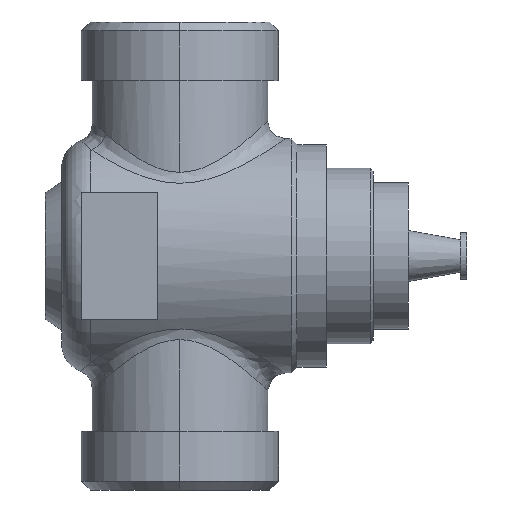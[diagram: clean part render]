
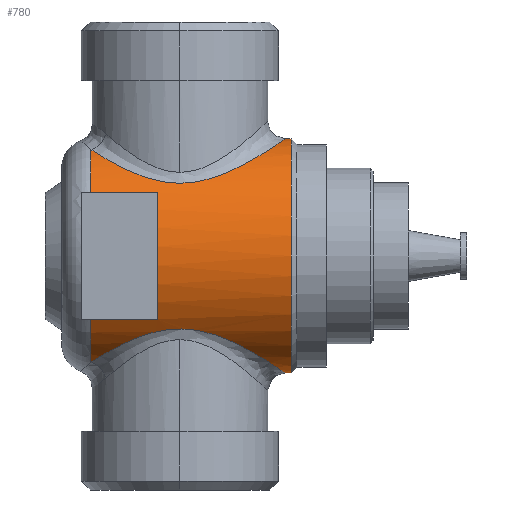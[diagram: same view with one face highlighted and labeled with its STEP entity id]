
A CAD part, left-side view. The second image highlights one B-rep face of the part: STEP entity #780.
In plain terms, the highlighted cylindrical face has radius 20 mm (diameter 40 mm), a partial arc.
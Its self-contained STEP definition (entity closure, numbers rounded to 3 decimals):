
#534=CARTESIAN_POINT('',(0.,-19.,20.0));
#535=VERTEX_POINT('',#534);
#544=CARTESIAN_POINT('',(0.,-19.,60.0));
#545=VERTEX_POINT('',#544);
#645=CARTESIAN_POINT('',(0.,0.614,40.0));
#646=DIRECTION('',(0.0,1.0,0.));
#647=DIRECTION('',(0.0,0.0,-1.0));
#648=AXIS2_PLACEMENT_3D('',#645,#646,#647);
#649=CYLINDRICAL_SURFACE('',#648,20.0);
#650=CARTESIAN_POINT('',(0.,-18.,20.));
#651=VERTEX_POINT('',#650);
#652=CARTESIAN_POINT('',(0.,-19.,20.0));
#653=DIRECTION('',(0.0,1.0,0.0));
#654=VECTOR('',#653,1.);
#655=LINE('',#652,#654);
#656=EDGE_CURVE('',#535,#651,#655,.T.);
#657=ORIENTED_EDGE('',*,*,#656,.F.);
#658=CARTESIAN_POINT('',(0.,-19.,40.0));
#659=DIRECTION('',(0.0,1.0,0.0));
#660=DIRECTION('',(0.0,0.0,-1.0));
#661=AXIS2_PLACEMENT_3D('',#658,#659,#660);
#662=CIRCLE('',#661,20.0);
#663=EDGE_CURVE('',#535,#545,#662,.T.);
#664=ORIENTED_EDGE('',*,*,#663,.T.);
#665=CARTESIAN_POINT('',(0.,-18.,60.));
#666=VERTEX_POINT('',#665);
#667=CARTESIAN_POINT('',(0.,-18.,60.));
#668=DIRECTION('',(0.0,-1.0,0.0));
#669=VECTOR('',#668,1.0);
#670=LINE('',#667,#669);
#671=EDGE_CURVE('',#666,#545,#670,.T.);
#672=ORIENTED_EDGE('',*,*,#671,.F.);
#673=CARTESIAN_POINT('',(-15.039,-4.988,53.184));
#674=VERTEX_POINT('',#673);
#675=CARTESIAN_POINT('',(0.,-18.,60.));
#676=CARTESIAN_POINT('',(-1.671,-18.,60.));
#677=CARTESIAN_POINT('',(-3.341,-17.685,59.784));
#678=CARTESIAN_POINT('',(-7.607,-16.071,58.708));
#679=CARTESIAN_POINT('',(-9.909,-14.265,57.509));
#680=CARTESIAN_POINT('',(-13.211,-10.009,55.134));
#681=CARTESIAN_POINT('',(-14.365,-7.677,53.953));
#682=CARTESIAN_POINT('',(-15.039,-4.988,53.184));
#683=B_SPLINE_CURVE_WITH_KNOTS('',3,(#675,#676,#677,#678,#679,#680,#681,#682),.UNSPECIFIED.,.F.,.U.,(4,2,2,4),(152.29,158.048,168.14,176.882),.UNSPECIFIED.);
#684=EDGE_CURVE('',#674,#666,#683,.F.);
#685=ORIENTED_EDGE('',*,*,#684,.F.);
#686=CARTESIAN_POINT('',(-8.346,15.228,58.176));
#687=VERTEX_POINT('',#686);
#688=CARTESIAN_POINT('',(-15.039,-4.988,53.184));
#689=CARTESIAN_POINT('',(-15.369,-3.674,52.808));
#690=CARTESIAN_POINT('',(-15.575,-2.281,52.547));
#691=CARTESIAN_POINT('',(-15.634,-0.86,52.473));
#692=CARTESIAN_POINT('',(-15.714,1.06,52.373));
#693=CARTESIAN_POINT('',(-15.516,3.003,52.636));
#694=CARTESIAN_POINT('',(-15.09,4.781,53.126));
#695=CARTESIAN_POINT('',(-14.595,6.847,53.695));
#696=CARTESIAN_POINT('',(-13.81,8.71,54.526));
#697=CARTESIAN_POINT('',(-12.795,10.368,55.372));
#698=CARTESIAN_POINT('',(-11.621,12.284,56.349));
#699=CARTESIAN_POINT('',(-10.129,13.936,57.357));
#700=CARTESIAN_POINT('',(-8.346,15.228,58.176));
#701=B_SPLINE_CURVE_WITH_KNOTS('',3,(#688,#689,#690,#691,#692,#693,#694,#695,#696,#697,#698,#699,#700),.UNSPECIFIED.,.F.,.U.,(4,3,3,3,4),(57.947,62.22,67.991,74.699,82.456),.UNSPECIFIED.);
#702=EDGE_CURVE('',#687,#674,#701,.F.);
#703=ORIENTED_EDGE('',*,*,#702,.F.);
#704=CARTESIAN_POINT('',(-16.827,15.228,50.81));
#705=VERTEX_POINT('',#704);
#706=CARTESIAN_POINT('',(0.,15.228,40.0));
#707=DIRECTION('',(0.0,1.0,0.0));
#708=DIRECTION('',(0.0,0.0,1.0));
#709=AXIS2_PLACEMENT_3D('',#706,#707,#708);
#710=CIRCLE('',#709,20.0);
#711=EDGE_CURVE('',#705,#687,#710,.T.);
#712=ORIENTED_EDGE('',*,*,#711,.F.);
#713=CARTESIAN_POINT('',(-16.827,3.901,50.81));
#714=VERTEX_POINT('',#713);
#715=CARTESIAN_POINT('',(-16.827,15.228,50.81));
#716=DIRECTION('',(0.0,-1.0,0.0));
#717=VECTOR('',#716,11.327);
#718=LINE('',#715,#717);
#719=EDGE_CURVE('',#705,#714,#718,.T.);
#720=ORIENTED_EDGE('',*,*,#719,.T.);
#721=CARTESIAN_POINT('',(-16.827,3.901,29.19));
#722=VERTEX_POINT('',#721);
#723=CARTESIAN_POINT('',(0.,3.901,40.0));
#724=DIRECTION('',(0.0,-1.0,0.0));
#725=DIRECTION('',(0.0,0.0,-1.0));
#726=AXIS2_PLACEMENT_3D('',#723,#724,#725);
#727=CIRCLE('',#726,20.0);
#728=EDGE_CURVE('',#714,#722,#727,.T.);
#729=ORIENTED_EDGE('',*,*,#728,.T.);
#730=CARTESIAN_POINT('',(-16.827,15.228,29.19));
#731=VERTEX_POINT('',#730);
#732=CARTESIAN_POINT('',(-16.827,3.901,29.19));
#733=DIRECTION('',(0.0,1.0,0.0));
#734=VECTOR('',#733,11.327);
#735=LINE('',#732,#734);
#736=EDGE_CURVE('',#722,#731,#735,.T.);
#737=ORIENTED_EDGE('',*,*,#736,.T.);
#738=CARTESIAN_POINT('',(-8.346,15.228,21.824));
#739=VERTEX_POINT('',#738);
#740=CARTESIAN_POINT('',(0.,15.228,40.0));
#741=DIRECTION('',(0.0,1.0,0.0));
#742=DIRECTION('',(0.0,0.0,1.0));
#743=AXIS2_PLACEMENT_3D('',#740,#741,#742);
#744=CIRCLE('',#743,20.0);
#745=EDGE_CURVE('',#739,#731,#744,.T.);
#746=ORIENTED_EDGE('',*,*,#745,.F.);
#747=CARTESIAN_POINT('',(-15.34,-3.574,27.168));
#748=VERTEX_POINT('',#747);
#749=CARTESIAN_POINT('',(-8.346,15.228,21.824));
#750=CARTESIAN_POINT('',(-9.393,14.468,22.306));
#751=CARTESIAN_POINT('',(-10.346,13.577,22.854));
#752=CARTESIAN_POINT('',(-11.183,12.594,23.419));
#753=CARTESIAN_POINT('',(-13.062,10.388,24.686));
#754=CARTESIAN_POINT('',(-14.455,7.651,26.135));
#755=CARTESIAN_POINT('',(-15.165,4.455,26.961));
#756=CARTESIAN_POINT('',(-15.733,1.901,27.621));
#757=CARTESIAN_POINT('',(-15.799,-0.972,27.716));
#758=CARTESIAN_POINT('',(-15.34,-3.574,27.168));
#759=B_SPLINE_CURVE_WITH_KNOTS('',3,(#749,#750,#751,#752,#753,#754,#755,#756,#757,#758),.UNSPECIFIED.,.F.,.U.,(4,3,3,4),(81.787,85.458,93.696,100.282),.UNSPECIFIED.);
#760=EDGE_CURVE('',#748,#739,#759,.F.);
#761=ORIENTED_EDGE('',*,*,#760,.F.);
#762=CARTESIAN_POINT('',(-15.34,-3.574,27.168));
#763=CARTESIAN_POINT('',(-15.135,-4.739,26.922));
#764=CARTESIAN_POINT('',(-14.834,-5.853,26.575));
#765=CARTESIAN_POINT('',(-14.456,-6.901,26.179));
#766=CARTESIAN_POINT('',(-13.851,-8.578,25.546));
#767=CARTESIAN_POINT('',(-13.041,-10.108,24.787));
#768=CARTESIAN_POINT('',(-12.065,-11.467,24.049));
#769=CARTESIAN_POINT('',(-10.537,-13.593,22.893));
#770=CARTESIAN_POINT('',(-8.551,-15.362,21.751));
#771=CARTESIAN_POINT('',(-6.195,-16.53,20.984));
#772=CARTESIAN_POINT('',(-4.292,-17.473,20.364));
#773=CARTESIAN_POINT('',(-2.147,-18.,20.));
#774=CARTESIAN_POINT('',(0.,-18.,20.));
#775=B_SPLINE_CURVE_WITH_KNOTS('',3,(#762,#763,#764,#765,#766,#767,#768,#769,#770,#771,#772,#773,#774),.UNSPECIFIED.,.F.,.U.,(4,3,3,3,4),(4.605,7.552,12.266,19.649,25.61),.UNSPECIFIED.);
#776=EDGE_CURVE('',#651,#748,#775,.F.);
#777=ORIENTED_EDGE('',*,*,#776,.F.);
#778=EDGE_LOOP('',(#657,#664,#672,#685,#703,#712,#720,#729,#737,#746,#761,#777));
#779=FACE_OUTER_BOUND('',#778,.T.);
#780=ADVANCED_FACE('',(#779),#649,.T.);
